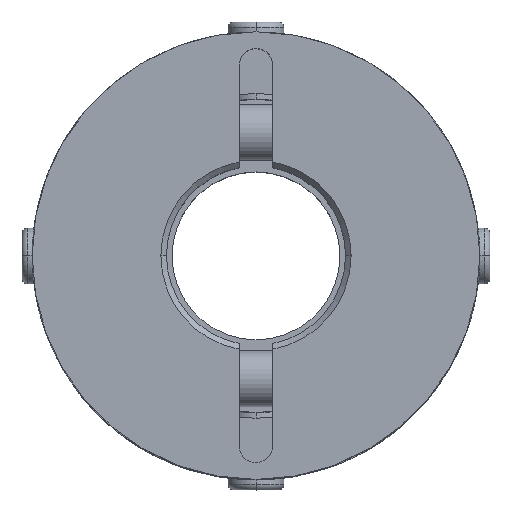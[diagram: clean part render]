
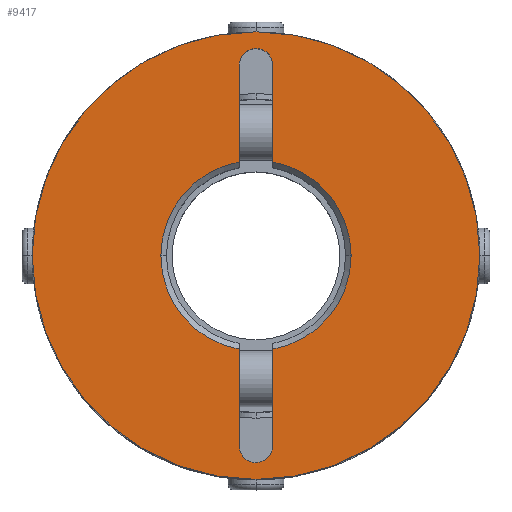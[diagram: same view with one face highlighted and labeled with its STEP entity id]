
A CAD part, top view. The second image highlights one B-rep face of the part: STEP entity #9417.
In plain terms, the highlighted planar face has unit normal (0, 0, 1).
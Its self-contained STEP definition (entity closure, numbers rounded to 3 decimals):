
#807=CARTESIAN_POINT('',(-1.061,18.061,20.0));
#808=VERTEX_POINT('',#807);
#824=CARTESIAN_POINT('',(1.5,17.,20.0));
#825=VERTEX_POINT('',#824);
#832=CARTESIAN_POINT('',(0.,17.,20.0));
#833=DIRECTION('',(0.0,0.0,1.));
#834=DIRECTION('',(0.707,0.707,0.0));
#835=AXIS2_PLACEMENT_3D('',#832,#833,#834);
#836=CIRCLE('',#835,1.5);
#837=EDGE_CURVE('',#825,#808,#836,.T.);
#849=CARTESIAN_POINT('',(1.061,-18.061,20.0));
#850=VERTEX_POINT('',#849);
#866=CARTESIAN_POINT('',(-1.5,-17.,20.0));
#867=VERTEX_POINT('',#866);
#874=CARTESIAN_POINT('',(0.0,-17.,20.0));
#875=DIRECTION('',(0.0,0.0,1.0));
#876=DIRECTION('',(-0.707,-0.707,0.0));
#877=AXIS2_PLACEMENT_3D('',#874,#875,#876);
#878=CIRCLE('',#877,1.5);
#879=EDGE_CURVE('',#867,#850,#878,.T.);
#980=CARTESIAN_POINT('',(-8.5,0.,20.0));
#981=VERTEX_POINT('',#980);
#988=CARTESIAN_POINT('',(-1.5,-8.367,20.0));
#989=VERTEX_POINT('',#988);
#990=CARTESIAN_POINT('',(0.0,0.0,20.0));
#991=DIRECTION('',(0.0,0.0,1.0));
#992=DIRECTION('',(-1.0,0.0,0.0));
#993=AXIS2_PLACEMENT_3D('',#990,#991,#992);
#994=CIRCLE('',#993,8.5);
#995=EDGE_CURVE('',#981,#989,#994,.T.);
#1019=CARTESIAN_POINT('',(8.5,0.,20.0));
#1020=VERTEX_POINT('',#1019);
#1027=CARTESIAN_POINT('',(1.5,8.367,20.0));
#1028=VERTEX_POINT('',#1027);
#1029=CARTESIAN_POINT('',(0.0,0.0,20.0));
#1030=DIRECTION('',(0.0,0.0,1.0));
#1031=DIRECTION('',(1.0,0.0,0.0));
#1032=AXIS2_PLACEMENT_3D('',#1029,#1030,#1031);
#1033=CIRCLE('',#1032,8.5);
#1034=EDGE_CURVE('',#1020,#1028,#1033,.T.);
#1511=CARTESIAN_POINT('',(-20.0,0.,20.0));
#1512=VERTEX_POINT('',#1511);
#1519=CARTESIAN_POINT('',(20.0,0.0,20.0));
#1520=VERTEX_POINT('',#1519);
#1521=CARTESIAN_POINT('',(0.0,0.0,20.0));
#1522=DIRECTION('',(0.0,0.0,-1.0));
#1523=DIRECTION('',(1.0,0.0,0.0));
#1524=AXIS2_PLACEMENT_3D('',#1521,#1522,#1523);
#1525=CIRCLE('',#1524,20.0);
#1526=EDGE_CURVE('',#1512,#1520,#1525,.T.);
#8746=CARTESIAN_POINT('',(0.0,0.0,20.0));
#8747=DIRECTION('',(0.0,0.0,-1.0));
#8748=DIRECTION('',(1.0,0.0,0.0));
#8749=AXIS2_PLACEMENT_3D('',#8746,#8747,#8748);
#8750=CIRCLE('',#8749,20.0);
#8751=EDGE_CURVE('',#1520,#1512,#8750,.T.);
#9228=CARTESIAN_POINT('',(-1.5,17.,20.0));
#9229=VERTEX_POINT('',#9228);
#9236=CARTESIAN_POINT('',(-1.5,8.367,20.0));
#9237=VERTEX_POINT('',#9236);
#9238=CARTESIAN_POINT('',(-1.5,8.367,20.0));
#9239=DIRECTION('',(0.0,1.0,0.0));
#9240=VECTOR('',#9239,8.633);
#9241=LINE('',#9238,#9240);
#9242=EDGE_CURVE('',#9237,#9229,#9241,.T.);
#9317=CARTESIAN_POINT('',(1.5,17.,20.0));
#9318=DIRECTION('',(0.0,-1.0,0.0));
#9319=VECTOR('',#9318,8.633);
#9320=LINE('',#9317,#9319);
#9321=EDGE_CURVE('',#825,#1028,#9320,.T.);
#9339=CARTESIAN_POINT('',(1.5,-8.367,20.0));
#9340=VERTEX_POINT('',#9339);
#9354=CARTESIAN_POINT('',(0.0,0.0,20.0));
#9355=DIRECTION('',(0.0,0.0,1.0));
#9356=DIRECTION('',(1.0,0.0,0.0));
#9357=AXIS2_PLACEMENT_3D('',#9354,#9355,#9356);
#9358=CIRCLE('',#9357,8.5);
#9359=EDGE_CURVE('',#9340,#1020,#9358,.T.);
#9364=CARTESIAN_POINT('',(1.818,0.,20.0));
#9365=DIRECTION('',(0.0,0.0,1.0));
#9366=DIRECTION('',(1.0,0.0,0.0));
#9367=AXIS2_PLACEMENT_3D('',#9364,#9365,#9366);
#9368=PLANE('',#9367);
#9369=ORIENTED_EDGE('',*,*,#8751,.F.);
#9370=ORIENTED_EDGE('',*,*,#1526,.F.);
#9371=EDGE_LOOP('',(#9369,#9370));
#9372=FACE_OUTER_BOUND('',#9371,.T.);
#9373=ORIENTED_EDGE('',*,*,#9359,.F.);
#9374=CARTESIAN_POINT('',(1.5,-17.,20.0));
#9375=VERTEX_POINT('',#9374);
#9376=CARTESIAN_POINT('',(1.5,-8.367,20.0));
#9377=DIRECTION('',(0.0,-1.0,0.0));
#9378=VECTOR('',#9377,8.633);
#9379=LINE('',#9376,#9378);
#9380=EDGE_CURVE('',#9340,#9375,#9379,.T.);
#9381=ORIENTED_EDGE('',*,*,#9380,.T.);
#9382=CARTESIAN_POINT('',(0.0,-17.,20.0));
#9383=DIRECTION('',(0.0,0.0,1.0));
#9384=DIRECTION('',(-0.707,-0.707,0.0));
#9385=AXIS2_PLACEMENT_3D('',#9382,#9383,#9384);
#9386=CIRCLE('',#9385,1.5);
#9387=EDGE_CURVE('',#850,#9375,#9386,.T.);
#9388=ORIENTED_EDGE('',*,*,#9387,.F.);
#9389=ORIENTED_EDGE('',*,*,#879,.F.);
#9390=CARTESIAN_POINT('',(-1.5,-17.,20.0));
#9391=DIRECTION('',(0.0,1.0,0.0));
#9392=VECTOR('',#9391,8.633);
#9393=LINE('',#9390,#9392);
#9394=EDGE_CURVE('',#867,#989,#9393,.T.);
#9395=ORIENTED_EDGE('',*,*,#9394,.T.);
#9396=ORIENTED_EDGE('',*,*,#995,.F.);
#9397=CARTESIAN_POINT('',(0.0,0.0,20.0));
#9398=DIRECTION('',(0.0,0.0,1.0));
#9399=DIRECTION('',(-1.0,0.0,0.0));
#9400=AXIS2_PLACEMENT_3D('',#9397,#9398,#9399);
#9401=CIRCLE('',#9400,8.5);
#9402=EDGE_CURVE('',#9237,#981,#9401,.T.);
#9403=ORIENTED_EDGE('',*,*,#9402,.F.);
#9404=ORIENTED_EDGE('',*,*,#9242,.T.);
#9405=CARTESIAN_POINT('',(0.,17.,20.0));
#9406=DIRECTION('',(0.0,0.0,1.));
#9407=DIRECTION('',(0.707,0.707,0.0));
#9408=AXIS2_PLACEMENT_3D('',#9405,#9406,#9407);
#9409=CIRCLE('',#9408,1.5);
#9410=EDGE_CURVE('',#808,#9229,#9409,.T.);
#9411=ORIENTED_EDGE('',*,*,#9410,.F.);
#9412=ORIENTED_EDGE('',*,*,#837,.F.);
#9413=ORIENTED_EDGE('',*,*,#9321,.T.);
#9414=ORIENTED_EDGE('',*,*,#1034,.F.);
#9415=EDGE_LOOP('',(#9373,#9381,#9388,#9389,#9395,#9396,#9403,#9404,#9411,#9412,#9413,#9414));
#9416=FACE_BOUND('',#9415,.T.);
#9417=ADVANCED_FACE('',(#9372,#9416),#9368,.T.);
